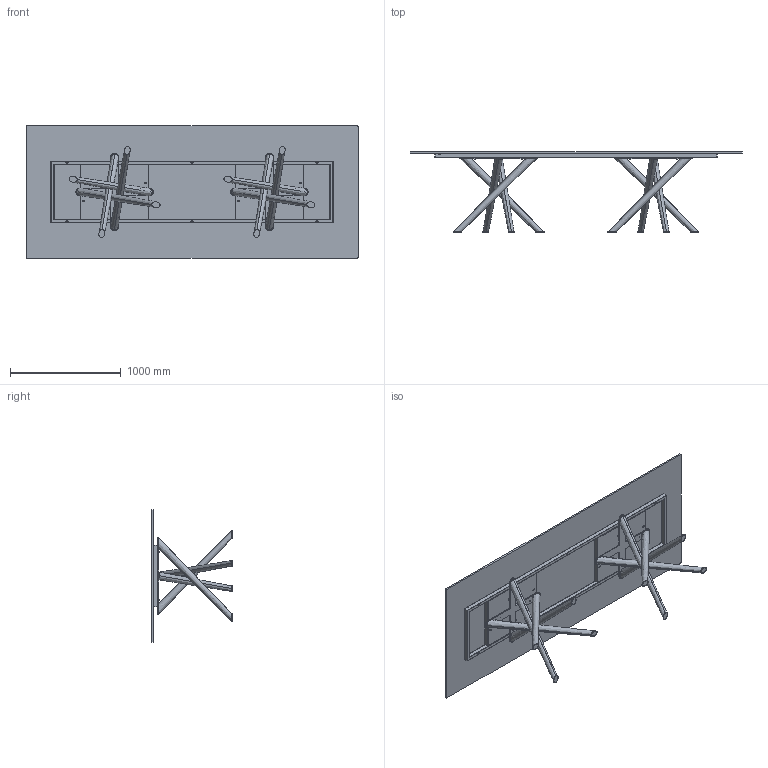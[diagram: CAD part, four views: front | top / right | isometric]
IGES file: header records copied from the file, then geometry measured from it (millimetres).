
Start section: SolidWorks IGES file using analytic representation for surfaces
Global section: file name: Y:\eforma\TECNICO\SOLIDWORKS\E-FORMA\1-TAVOLI\BALY\02 parts\BA24G.IGS; native system: SolidWorks 2022; preprocessor: SolidWorks 2022; author: eforma.tech; date: 240808.080750; units: millimetre
Bounding box: 3000 x 730 x 1200 mm (x, y, z)
Volume: 63434308.9 mm3; surface area: 13749844.3 mm2
Topology: 54 solids, 54 shells, 1032 faces, 2334 edges, 1396 vertices
Faces by surface type: revolution 582, plane 434, bspline 16
